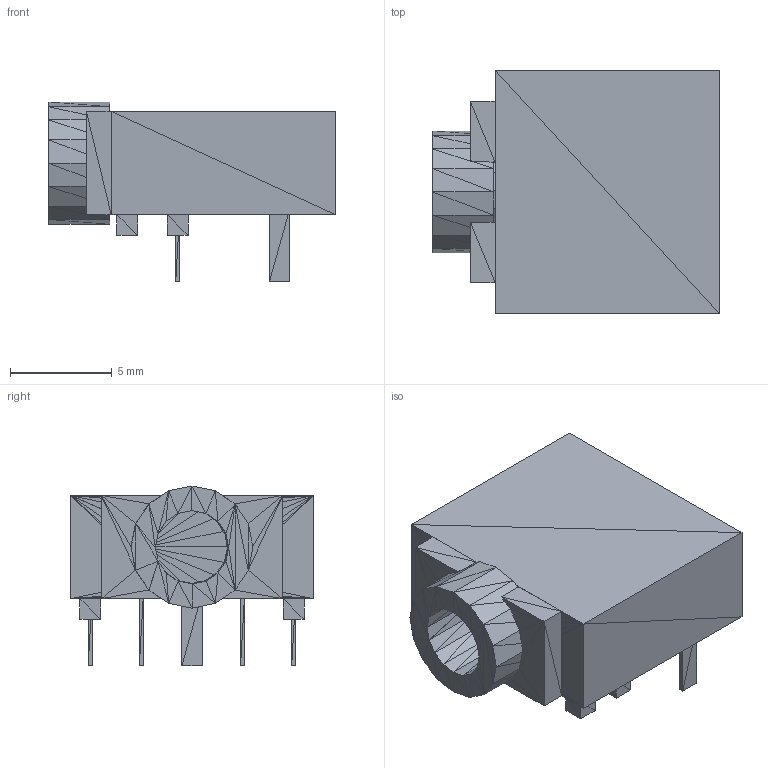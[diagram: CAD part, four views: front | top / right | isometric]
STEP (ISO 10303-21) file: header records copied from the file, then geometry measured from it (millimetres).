
FILE_DESCRIPTION(('HOOPS Exchange Step'),'2;1');
FILE_NAME('***.stp');
FILE_SCHEMA( ('AP242_MANAGED_MODEL_BASED_3D_ENGINEERING_MIM_LF {1 0 10303 442 1 1 4 }') );
Length unit declared in the file: inch
Products named in the file (15): PHJKMINISTSW_2; PHJKMINISTSW_3; PHJKMINISTSW_4; PHJKMINISTSW_5; PHJKMINISTSW_6; PHJKMINISTSW_7; PHJKMINISTSW_8; PHJKMINISTSW_9; PHJKMINISTSW_10; PHJKMINISTSW_11; PHJKMINISTSW_12; PHJKMINISTSW_13; PHJKMINISTSW_14; PHJKMINISTSW_15; PHJKMINISTSW
Assembly tree (14 placements, depth 2):
  PHJKMINISTSW
    PHJKMINISTSW_2
    PHJKMINISTSW_3
    PHJKMINISTSW_4
    PHJKMINISTSW_5
    PHJKMINISTSW_6
    PHJKMINISTSW_7
    PHJKMINISTSW_8
    PHJKMINISTSW_9
    PHJKMINISTSW_10
    PHJKMINISTSW_11
    PHJKMINISTSW_12
    PHJKMINISTSW_13
    PHJKMINISTSW_14
    PHJKMINISTSW_15
Bounding box: 14.1 x 11.99 x 8.84 mm (x, y, z)
Volume: 649.6 mm3; surface area: 1221.2 mm2
Topology: 14 solids, 14 shells, 512 faces, 768 edges, 280 vertices
Faces by surface type: plane 512
Entity records: 10662 total; most frequent: DIRECTION 1852, CARTESIAN_POINT 1590, ORIENTED_EDGE 1536, VECTOR 768, LINE 768, EDGE_CURVE 768, AXIS2_PLACEMENT_3D 542, PLANE 512
